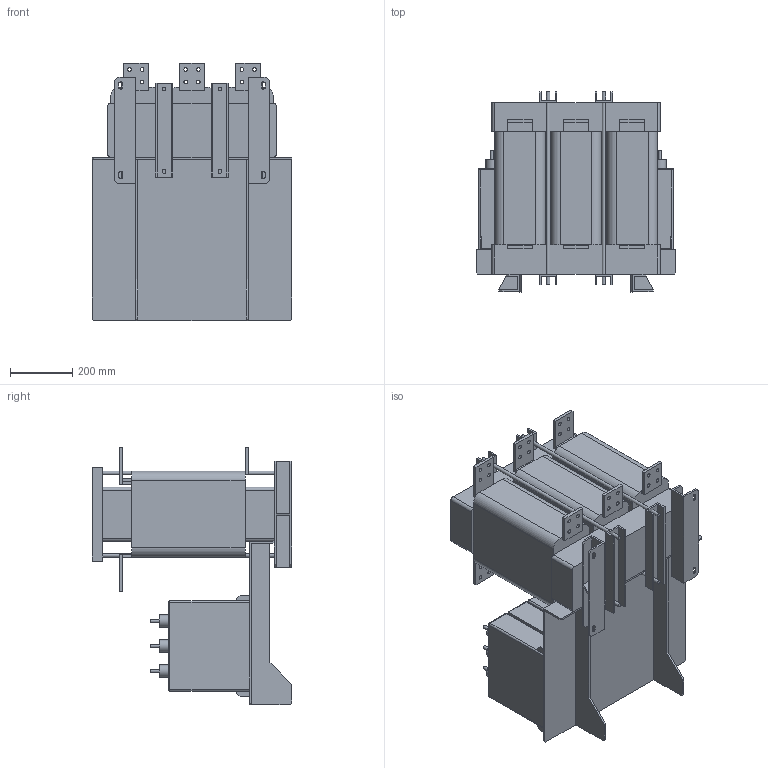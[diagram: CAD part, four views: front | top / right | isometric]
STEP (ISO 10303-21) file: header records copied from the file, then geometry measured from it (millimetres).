
FILE_DESCRIPTION(/* description */ (''),/* implementation_level */ '2;1');
FILE_NAME(/* name */ 'Sin-T4-1600.stp',/* time_stamp */ '2025-03-11T09:39:17+04:00',/* author */ ('Лео'),/* organization */ (''),/* preprocessor_version */ 'ST-DEVELOPER v19.2',/* originating_system */ 'Autodesk Inventor 2024',/* authorisation */ '');
FILE_SCHEMA (('AUTOMOTIVE_DESIGN { 1 0 10303 214 3 1 1 }'));
Length unit declared in the file: millimetre
Products named in the file (1): Sin-T4-004
Bounding box: 640 x 640 x 825 mm (x, y, z)
Volume: 116296877.2 mm3; surface area: 5513175.1 mm2
Topology: 99 solids, 99 shells, 806 faces, 1734 edges, 1126 vertices
Faces by surface type: plane 586, cylinder 193, sphere 27
Full cylindrical faces by diameter (mm): 10 x21, 12 x40, 39 x21
Entity records: 21784 total; most frequent: DIRECTION 3733, CARTESIAN_POINT 3667, ORIENTED_EDGE 3468, EDGE_CURVE 1734, LINE 1349, VECTOR 1349, AXIS2_PLACEMENT_3D 1192, VERTEX_POINT 1126
